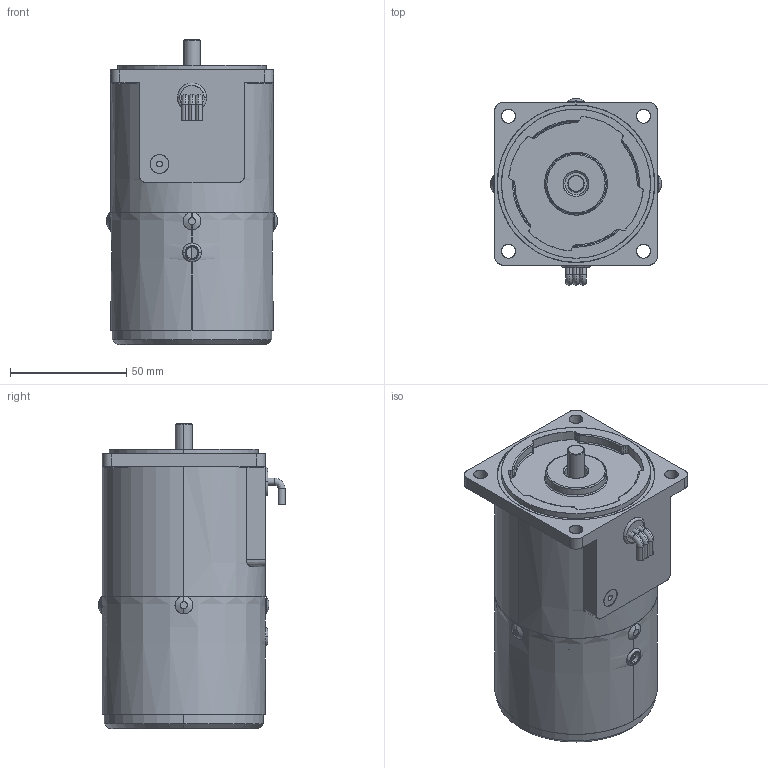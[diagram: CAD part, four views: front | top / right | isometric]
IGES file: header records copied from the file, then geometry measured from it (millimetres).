
Start section: SolidWorks IGES file using analytic representation for surfaces
Bounding box: 73 x 80 x 131 mm (x, y, z)
Surface area: 83745.6 mm2 (no closed solid volume)
Topology: 0 solids, 0 shells, 246 faces, 5083 edges, 5082 vertices
Faces by surface type: revolution 137, bspline 109
